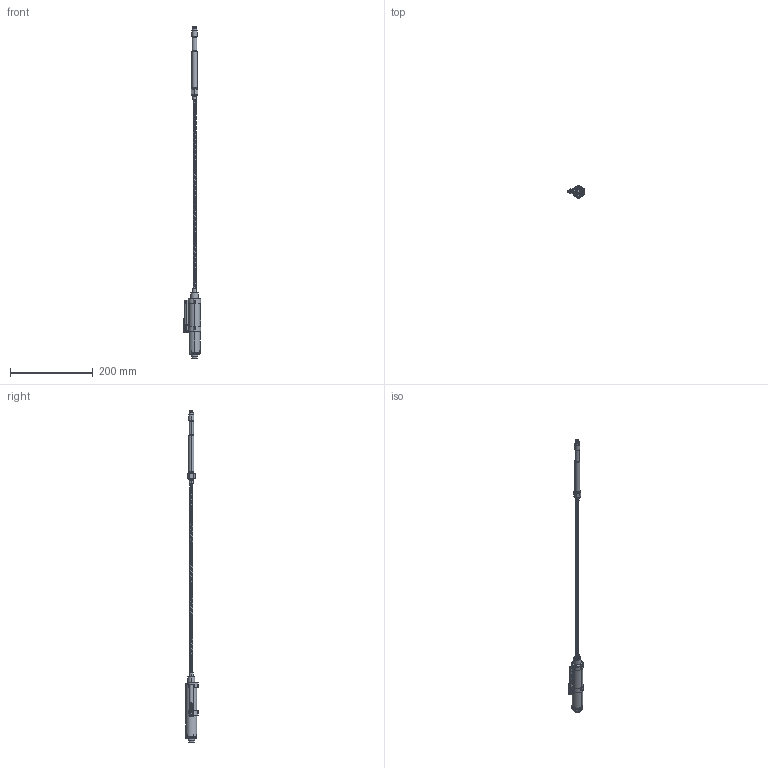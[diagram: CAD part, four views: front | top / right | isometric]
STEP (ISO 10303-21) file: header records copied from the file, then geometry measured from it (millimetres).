
FILE_DESCRIPTION (( 'STEP AP203' ), '1' );
FILE_NAME ('KE1 8 poli PLc.STEP', '2014-12-09T08:25:21', ( 'User' ), ( '' ), 'SwSTEP 2.0', 'SolidWorks 2014', '' );
FILE_SCHEMA (( 'CONFIG_CONTROL_DESIGN' ));
Length unit declared in the file: millimetre
Products named in the file (13): NIP200x; CUS1056_Custodia x pin verticali; TAP105; STE801x_Revisione 1; CON039; PKIT310x; KE1 8 poli PLc; PKIT311x; PKIT309x; FLX007x; NIP202x; MEM902x; MGN005x
Assembly tree (12 placements, depth 2):
  KE1 8 poli PLc
    STE801x_Revisione 1
    PKIT310x
    PKIT311x
    PKIT309x
    NIP202x
    FLX007x
    MEM902x
    MGN005x
    NIP200x
    CUS1056_Custodia x pin verticali
    TAP105
    CON039
Bounding box: 41.97 x 29.75 x 802.22 mm (x, y, z)
Volume: 53682.2 mm3; surface area: 66368.4 mm2
Topology: 11 solids, 12 shells, 1934 faces, 4701 edges, 2737 vertices
Faces by surface type: bspline 870, cylinder 686, plane 275, cone 94, torus 9
Entity records: 94367 total; most frequent: CARTESIAN_POINT 55669, ORIENTED_EDGE 9194, DIRECTION 6107, EDGE_CURVE 4603, VERTEX_POINT 2735, AXIS2_PLACEMENT_3D 2486, EDGE_LOOP 1994, FACE_OUTER_BOUND 1933
